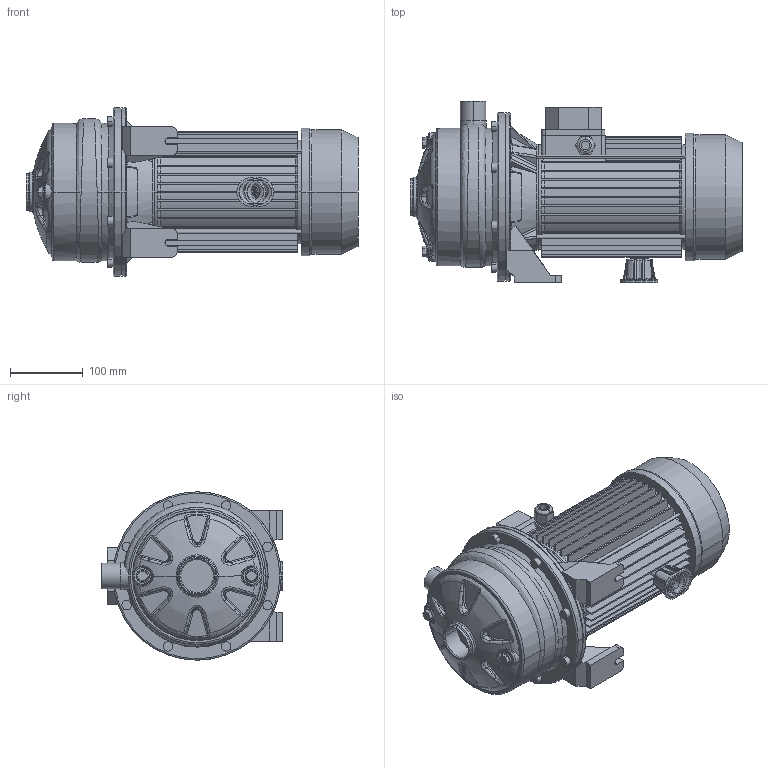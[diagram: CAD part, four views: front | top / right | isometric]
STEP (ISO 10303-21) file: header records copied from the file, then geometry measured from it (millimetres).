
FILE_DESCRIPTION((''),'2;1');
FILE_NAME('2CDX_200_40_IE2_ASM','2011-06-30T',('Utente'),('"Ebara Pumps Europe +39.444.706811"'),'PRO/ENGINEER BY PARAMETRIC TECHNOLOGY CORPORATION, 2009360','PRO/ENGINEER BY PARAMETRIC TECHNOLOGY CORPORATION, 2009360','');
FILE_SCHEMA(('AUTOMOTIVE_DESIGN { 1 0 10303 214 1 1 1 1 }'));
Length unit declared in the file: millimetre
Products named in the file (5): MEC_90X140_IE2; 80565; 251420693; 72012; 2CDX_200_40_IE2_ASM
Assembly tree (5 placements, depth 2):
  2CDX_200_40_IE2_ASM
    MEC_90X140_IE2
    80565
    251420693
    72012  x2
Bounding box: 457.5 x 250 x 232 mm (x, y, z)
Volume: 6048200.5 mm3; surface area: 821677.9 mm2
Topology: 5 solids, 5 shells, 1197 faces, 2833 edges, 1696 vertices
Faces by surface type: plane 423, bspline 292, cylinder 196, cone 144, torus 128, sphere 14
Entity records: 51719 total; most frequent: CARTESIAN_POINT 20273, ORIENTED_EDGE 4950, DIRECTION 4369, PRESENTATION_STYLE_ASSIGNMENT 2479, STYLED_ITEM 2479, CURVE_STYLE 2475, EDGE_CURVE 2475, AXIS2_PLACEMENT_3D 1755
